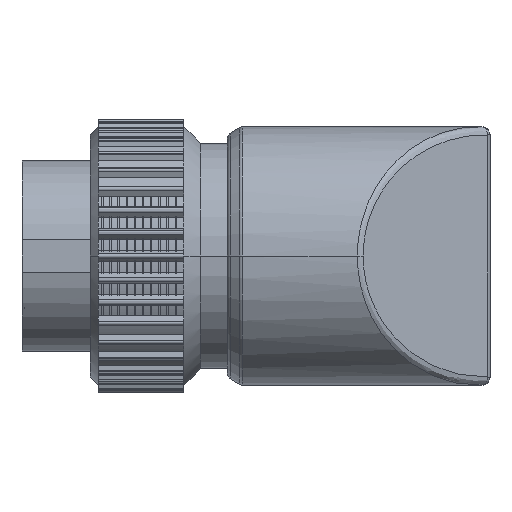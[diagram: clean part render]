
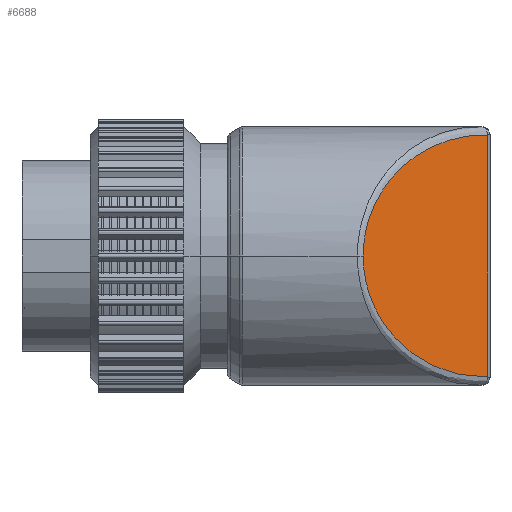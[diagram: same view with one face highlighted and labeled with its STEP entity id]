
A CAD part, front view. The second image highlights one B-rep face of the part: STEP entity #6688.
In plain terms, the highlighted planar face has unit normal (0.707, -0.707, 0).
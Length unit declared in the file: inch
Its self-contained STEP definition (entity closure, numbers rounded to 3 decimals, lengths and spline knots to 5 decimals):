
#6=DIRECTION('',(0.,0.,-1.));
#7=VECTOR('',#6,0.88963);
#8=CARTESIAN_POINT('',(1.71121,-0.00879,0.44483));
#9=LINE('',#8,#7);
#10=CARTESIAN_POINT('',(1.71121,-0.00879,
-0.4448));
#11=CARTESIAN_POINT('',(1.67673,-0.04327,
-0.44576));
#12=CARTESIAN_POINT('',(1.61128,-0.10872,
-0.43979));
#13=CARTESIAN_POINT('',(1.52257,-0.19743,
-0.41188));
#14=CARTESIAN_POINT('',(1.4469,-0.2731,
-0.37002));
#15=CARTESIAN_POINT('',(1.38393,-0.33607,
-0.31782));
#16=CARTESIAN_POINT('',(1.33367,-0.38633,
-0.25817));
#17=CARTESIAN_POINT('',(1.2959,-0.4241,
-0.19362));
#18=CARTESIAN_POINT('',(1.27026,-0.44974,
-0.12663));
#19=CARTESIAN_POINT('',(1.2563,-0.4637,
-0.06014));
#20=CARTESIAN_POINT('',(1.25379,-0.46621,
-0.01961));
#21=CARTESIAN_POINT('',(1.25379,-0.46621,0.));
#23=CARTESIAN_POINT('',(1.25379,-0.46621,0.));
#24=CARTESIAN_POINT('',(1.25379,-0.46621,0.01855));
#25=CARTESIAN_POINT('',(1.25606,-0.46394,0.05712));
#26=CARTESIAN_POINT('',(1.26865,-0.45135,0.12049));
#27=CARTESIAN_POINT('',(1.29246,-0.42754,0.18617));
#28=CARTESIAN_POINT('',(1.32887,-0.39113,0.25129));
#29=CARTESIAN_POINT('',(1.37863,-0.34137,0.31261));
#30=CARTESIAN_POINT('',(1.4423,-0.2777,0.36702));
#31=CARTESIAN_POINT('',(1.51994,-0.20006,0.41103));
#32=CARTESIAN_POINT('',(1.61201,-0.10799,0.44006));
#33=CARTESIAN_POINT('',(1.67719,-0.04281,0.44577));
#34=CARTESIAN_POINT('',(1.71121,-0.00879,0.44483));
#6137=CARTESIAN_POINT('',(1.71121,-0.00879,
0.44483));
#6138=CARTESIAN_POINT('',(1.71121,-0.00879,
-0.4448));
#6139=VERTEX_POINT('',#6137);
#6140=VERTEX_POINT('',#6138);
#6147=VERTEX_POINT('',#21);
#6676=CARTESIAN_POINT('',(1.72,0.,-0.5));
#6677=DIRECTION('',(-0.707,0.707,0.));
#6678=DIRECTION('',(-0.707,-0.707,0.));
#6679=AXIS2_PLACEMENT_3D('',#6676,#6677,#6678);
#6680=PLANE('',#6679);
#6681=ORIENTED_EDGE('',*,*,#6666,.T.);
#6683=ORIENTED_EDGE('',*,*,#6682,.T.);
#6685=ORIENTED_EDGE('',*,*,#6684,.T.);
#6686=EDGE_LOOP('',(#6681,#6683,#6685));
#6687=FACE_OUTER_BOUND('',#6686,.F.);
#6688=ADVANCED_FACE('',(#6687),#6680,.F.);
#22=B_SPLINE_CURVE_WITH_KNOTS('',3,(#10,#11,#12,#13,#14,#15,#16,#17,#18,#19,#20,
#21),.UNSPECIFIED.,.F.,.F.,(4,1,1,1,1,1,1,1,1,4),(0.,0.11111,
0.22222,0.33333,0.44444,0.55556,
0.66667,0.77778,0.88889,1.),.UNSPECIFIED.);
#35=B_SPLINE_CURVE_WITH_KNOTS('',3,(#23,#24,#25,#26,#27,#28,#29,#30,#31,#32,#33,
#34),.UNSPECIFIED.,.F.,.F.,(4,1,1,1,1,1,1,1,1,4),(0.,0.11111,
0.22222,0.33333,0.44444,0.55556,
0.66667,0.77778,0.88889,1.),.UNSPECIFIED.);
#6666=EDGE_CURVE('',#6139,#6140,#9,.T.);
#6682=EDGE_CURVE('',#6140,#6147,#22,.T.);
#6684=EDGE_CURVE('',#6147,#6139,#35,.T.);
